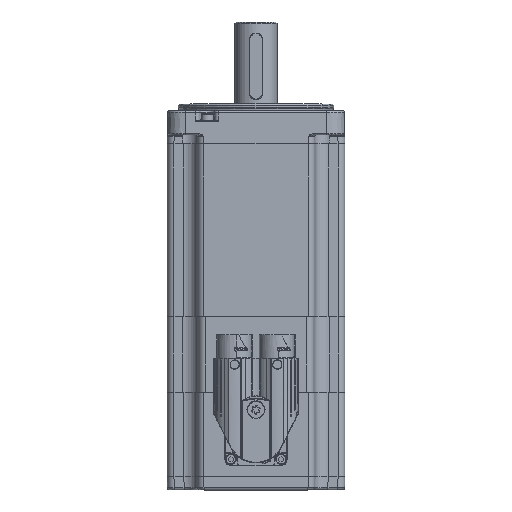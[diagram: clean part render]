
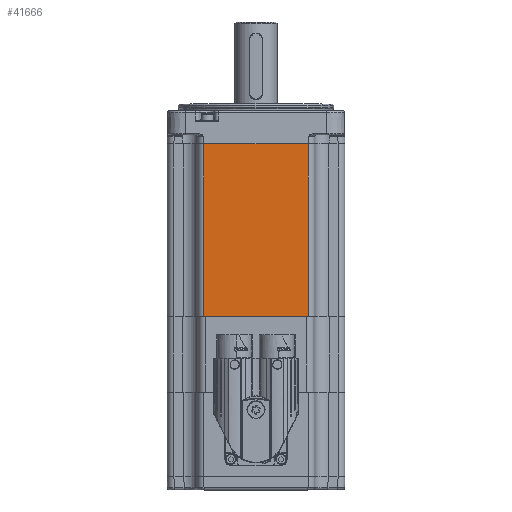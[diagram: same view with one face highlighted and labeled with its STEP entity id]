
A CAD part, top view. The second image highlights one B-rep face of the part: STEP entity #41666.
In plain terms, the highlighted planar face has unit normal (0, 0, 1).
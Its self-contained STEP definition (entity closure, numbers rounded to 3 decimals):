
#5134=LINE('',#111420,#7556);
#5148=LINE('',#111491,#7570);
#5164=LINE('',#111563,#7586);
#5165=LINE('',#111564,#7587);
#7556=VECTOR('',#72167,1000.);
#7570=VECTOR('',#72225,1000.);
#7586=VECTOR('',#72299,1000.);
#7587=VECTOR('',#72300,1000.);
#8519=PLANE('',#61472);
#20211=ORIENTED_EDGE('',*,*,#26209,.T.);
#20212=ORIENTED_EDGE('',*,*,#26175,.T.);
#20213=ORIENTED_EDGE('',*,*,#26210,.T.);
#20214=ORIENTED_EDGE('',*,*,#26140,.T.);
#26140=EDGE_CURVE('',#30039,#30037,#5134,.T.);
#26175=EDGE_CURVE('',#30074,#30073,#5148,.T.);
#26209=EDGE_CURVE('',#30037,#30074,#5164,.F.);
#26210=EDGE_CURVE('',#30073,#30039,#5165,.F.);
#30037=VERTEX_POINT('',#111418);
#30039=VERTEX_POINT('',#111421);
#30073=VERTEX_POINT('',#111490);
#30074=VERTEX_POINT('',#111492);
#35083=EDGE_LOOP('',(#20211,#20212,#20213,#20214));
#38307=FACE_BOUND('',#35083,.T.);
#41666=ADVANCED_FACE('',(#38307),#8519,.T.);
#61472=AXIS2_PLACEMENT_3D('',#111562,#72297,#72298);
#72167=DIRECTION('',(0.,-1.,0.));
#72225=DIRECTION('',(0.,1.,0.));
#72297=DIRECTION('',(0.,0.,1.));
#72298=DIRECTION('',(1.,0.,0.));
#72299=DIRECTION('',(-1.,0.,0.));
#72300=DIRECTION('',(1.,0.,0.));
#111418=CARTESIAN_POINT('',(-79.,-23.5,40.));
#111420=CARTESIAN_POINT('',(-79.,40.,40.));
#111421=CARTESIAN_POINT('',(-79.,23.5,40.));
#111490=CARTESIAN_POINT('',(-1.,23.5,40.));
#111491=CARTESIAN_POINT('',(-1.,40.,40.));
#111492=CARTESIAN_POINT('',(-1.,-23.5,40.));
#111562=CARTESIAN_POINT('',(-200.,40.,40.));
#111563=CARTESIAN_POINT('',(0.,-23.5,40.));
#111564=CARTESIAN_POINT('',(-200.,23.5,40.));
